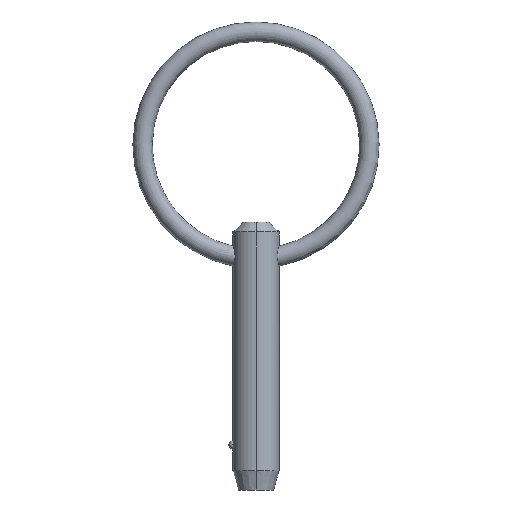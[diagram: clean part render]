
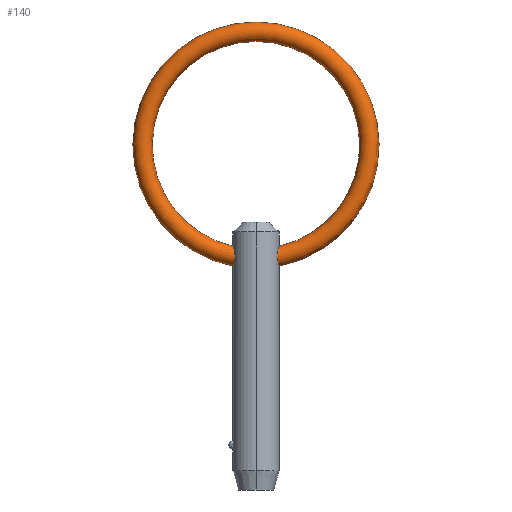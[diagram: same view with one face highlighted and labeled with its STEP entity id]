
A CAD part, left-side view. The second image highlights one B-rep face of the part: STEP entity #140.
In plain terms, the highlighted toroidal (fillet/blend) face has major radius 11.7 mm and minor radius 1 mm.
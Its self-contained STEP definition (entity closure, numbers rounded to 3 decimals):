
#2 = ORIENTED_EDGE ( 'NONE', *, *, #82, .F. ) ;
#6 = CARTESIAN_POINT ( 'NONE',  ( 0., 0., 30.5 ) ) ;
#21 = CARTESIAN_POINT ( 'NONE',  ( -0.267, -2.368, 20.037 ) ) ;
#24 = AXIS2_PLACEMENT_3D ( 'NONE', #6, #306, #117 ) ;
#32 = CARTESIAN_POINT ( 'NONE',  ( -0.512, 2.328, 18.148 ) ) ;
#34 = CARTESIAN_POINT ( 'NONE',  ( -0.793, 2.246, 19.652 ) ) ;
#35 = CARTESIAN_POINT ( 'NONE',  ( -0.885, 2.21, 18.517 ) ) ;
#40 = DIRECTION ( 'NONE',  ( 0., 0., -1. ) ) ;
#42 = VERTEX_POINT ( 'NONE', #58 ) ;
#44 = CIRCLE ( 'NONE', #122, 12.7 ) ;
#54 = CARTESIAN_POINT ( 'NONE',  ( -1.004, -2.158, 18.899 ) ) ;
#58 = CARTESIAN_POINT ( 'NONE',  ( 0., -2.38, 20.068 ) ) ;
#66 = CARTESIAN_POINT ( 'NONE',  ( -0.957, 2.179, 18.702 ) ) ;
#67 = CARTESIAN_POINT ( 'NONE',  ( -0.975, 2.171, 18.767 ) ) ;
#69 = CARTESIAN_POINT ( 'NONE',  ( -0.966, 2.176, 19.296 ) ) ;
#82 = EDGE_CURVE ( 'NONE', #385, #143, #442, .T. ) ;
#90 = CARTESIAN_POINT ( 'NONE',  ( 0., -2.38, 18.025 ) ) ;
#92 = CARTESIAN_POINT ( 'NONE',  ( 0., -2.38, 20.068 ) ) ;
#94 = CARTESIAN_POINT ( 'NONE',  ( -0.134, -2.38, 20.068 ) ) ;
#95 = CARTESIAN_POINT ( 'NONE',  ( -0.514, -2.327, 18.149 ) ) ;
#107 = CARTESIAN_POINT ( 'NONE',  ( -0.267, 2.368, 20.037 ) ) ;
#111 = ORIENTED_EDGE ( 'NONE', *, *, #256, .T. ) ;
#113 = DIRECTION ( 'NONE',  ( 0., 0., -1. ) ) ;
#117 = DIRECTION ( 'NONE',  ( 0., 0., -1. ) ) ;
#122 = AXIS2_PLACEMENT_3D ( 'NONE', #450, #410, #40 ) ;
#127 = CARTESIAN_POINT ( 'NONE',  ( -0.885, -2.21, 18.517 ) ) ;
#129 = FACE_OUTER_BOUND ( 'NONE', #434, .T. ) ;
#140 = ADVANCED_FACE ( 'NONE', ( #129 ), #210, .T. ) ;
#143 = VERTEX_POINT ( 'NONE', #366 ) ;
#150 = CARTESIAN_POINT ( 'NONE',  ( -0.864, 2.218, 19.541 ) ) ;
#176 = CARTESIAN_POINT ( 'NONE',  ( -0.982, -2.169, 18.765 ) ) ;
#179 = CARTESIAN_POINT ( 'NONE',  ( -0.505, -2.329, 19.926 ) ) ;
#193 = CARTESIAN_POINT ( 'NONE',  ( -0.133, 2.38, 18.025 ) ) ;
#202 = EDGE_CURVE ( 'NONE', #143, #247, #44, .T. ) ;
#207 = AXIS2_PLACEMENT_3D ( 'NONE', #334, #272, #113 ) ;
#210 = TOROIDAL_SURFACE ( 'NONE', #24, 11.7, 1. ) ;
#227 = CARTESIAN_POINT ( 'NONE',  ( -1.001, 2.159, 18.964 ) ) ;
#242 = CARTESIAN_POINT ( 'NONE',  ( -0.133, -2.38, 18.025 ) ) ;
#247 = VERTEX_POINT ( 'NONE', #409 ) ;
#256 = EDGE_CURVE ( 'NONE', #385, #42, #280, .T. ) ;
#262 = CARTESIAN_POINT ( 'NONE',  ( -0.133, 2.38, 20.068 ) ) ;
#264 = CARTESIAN_POINT ( 'NONE',  ( -0.614, 2.301, 19.845 ) ) ;
#267 = CARTESIAN_POINT ( 'NONE',  ( -0.997, 2.161, 18.898 ) ) ;
#268 = CARTESIAN_POINT ( 'NONE',  ( -0.267, 2.368, 18.051 ) ) ;
#272 = DIRECTION ( 'NONE',  ( 1., 0., 0. ) ) ;
#279 = CARTESIAN_POINT ( 'NONE',  ( 0., 2.38, 20.068 ) ) ;
#280 = CIRCLE ( 'NONE', #207, 10.7 ) ;
#288 = CARTESIAN_POINT ( 'NONE',  ( -0.613, -2.302, 19.846 ) ) ;
#306 = DIRECTION ( 'NONE',  ( 1., 0., 0. ) ) ;
#316 = CARTESIAN_POINT ( 'NONE',  ( -0.626, -2.298, 18.222 ) ) ;
#329 = ORIENTED_EDGE ( 'NONE', *, *, #453, .F. ) ;
#334 = CARTESIAN_POINT ( 'NONE',  ( 0., 0., 30.5 ) ) ;
#337 = ORIENTED_EDGE ( 'NONE', *, *, #202, .F. ) ;
#342 = CARTESIAN_POINT ( 'NONE',  ( -0.268, -2.368, 18.051 ) ) ;
#352 = CARTESIAN_POINT ( 'NONE',  ( -0.811, -2.24, 18.406 ) ) ;
#359 = CARTESIAN_POINT ( 'NONE',  ( -0.626, 2.298, 18.222 ) ) ;
#366 = CARTESIAN_POINT ( 'NONE',  ( 0., 2.38, 18.025 ) ) ;
#384 = CARTESIAN_POINT ( 'NONE',  ( -0.991, -2.164, 19.301 ) ) ;
#385 = VERTEX_POINT ( 'NONE', #279 ) ;
#387 = CARTESIAN_POINT ( 'NONE',  ( -0.88, -2.219, 19.56 ) ) ;
#397 = CARTESIAN_POINT ( 'NONE',  ( -0.507, 2.329, 19.925 ) ) ;
#399 = CARTESIAN_POINT ( 'NONE',  ( -0.811, 2.24, 18.405 ) ) ;
#401 = B_SPLINE_CURVE_WITH_KNOTS ( 'NONE', 3,
 ( #90, #242, #342, #95, #316, #352, #127, #176, #54, #384, #387, #288, #179, #21, #94, #92 ),
 .UNSPECIFIED., .F., .F.,
 ( 4, 2, 2, 2, 2, 2, 2, 4 ),
 ( 0.006, 0.006, 0.007, 0.007, 0.007, 0.008, 0.009, 0.009 ),
 .UNSPECIFIED. ) ;
#402 = CARTESIAN_POINT ( 'NONE',  ( 0., 2.38, 20.068 ) ) ;
#403 = CARTESIAN_POINT ( 'NONE',  ( -0.996, 2.162, 19.165 ) ) ;
#409 = CARTESIAN_POINT ( 'NONE',  ( 0., -2.38, 18.025 ) ) ;
#410 = DIRECTION ( 'NONE',  ( 1., 0., 0. ) ) ;
#434 = EDGE_LOOP ( 'NONE', ( #337, #2, #111, #329 ) ) ;
#437 = CARTESIAN_POINT ( 'NONE',  ( 0., 2.38, 18.025 ) ) ;
#442 = B_SPLINE_CURVE_WITH_KNOTS ( 'NONE', 3,
 ( #402, #262, #107, #397, #264, #34, #150, #69, #403, #227, #267, #67, #66, #35, #399, #359, #32, #268, #193, #437 ),
 .UNSPECIFIED., .F., .F.,
 ( 4, 2, 2, 2, 2, 2, 2, 2, 2, 4 ),
 ( 0.004, 0.004, 0.005, 0.005, 0.005, 0.006, 0.006, 0.006, 0.007, 0.007 ),
 .UNSPECIFIED. ) ;
#450 = CARTESIAN_POINT ( 'NONE',  ( 0., 0., 30.5 ) ) ;
#453 = EDGE_CURVE ( 'NONE', #247, #42, #401, .T. ) ;
